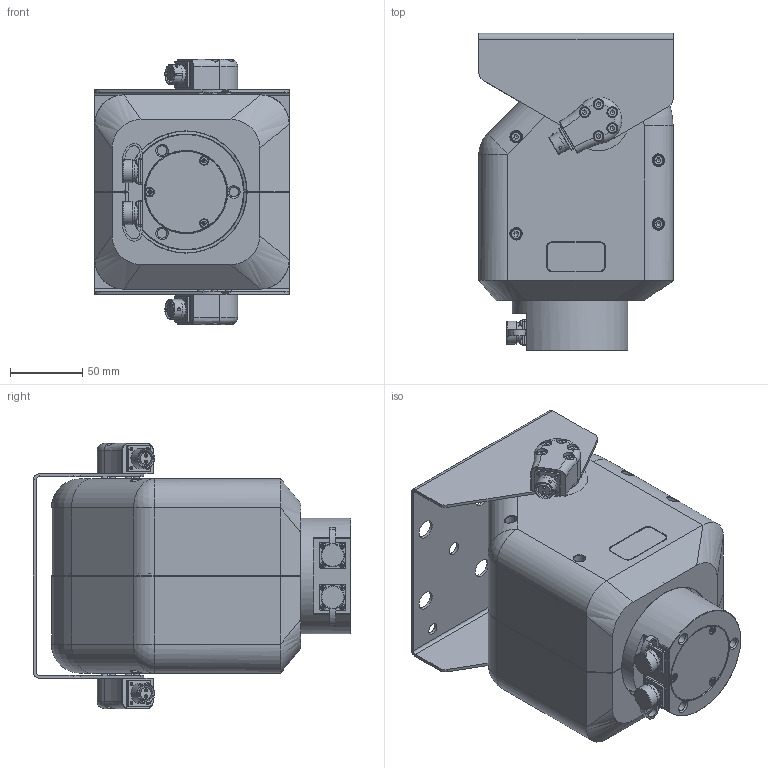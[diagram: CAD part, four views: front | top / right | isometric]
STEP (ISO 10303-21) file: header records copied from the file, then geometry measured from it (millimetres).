
FILE_DESCRIPTION(('STEP AP242'), '1');
FILE_NAME('TL.0009-271', '', ('UNSPECIFIED'), ('UNSPECIFIED'), 'C3D Converter', 'C3D Toolkit', '');
FILE_SCHEMA(('AP242_MANAGED_MODEL_BASED_3D_ENGINEERING_MIM_LF { 1 0 10303 442 1 1 4 }'));
Length unit declared in the file: millimetre
Products named in the file (27): TL.0008-1; Кожух; Шильд TL.0008-003; Кронштейн полезной нагрузки; DIN 912 - M4 x 16; шайба нейлоновая WS4-1 20968; ухо с разъёмом (прав); DIN 912 - M4 x 0,7 x 25 x 23,25; SF1213-S2-N; TL.0008-091 Кронштейн угловой кабельный; Опора поворотки; Крышка опоры; ISO 7046-1  - M3 x 8 - 4.8 - Z; ТехЛазер TL.0192 (2 выхода сверху) с проставкой; SF1213 nhb rjynfrnf; DIN 7985 (Z) - M2x6-Z
Assembly tree (55 placements, depth 5):
  (unnamed)
    TL.0008-1
      Кожух
      Шильд TL.0008-003
      Кронштейн полезной нагрузки
      DIN 912 - M4 x 16  x4
      DIN 912 - M4 x 16
      DIN 912 - M4 x 16  x2
      DIN 912 - M4 x 16
      шайба нейлоновая WS4-1 20968  x8
      ухо с разъёмом (прав)
        DIN 912 - M4 x 0,7 x 25 x 23,25
        DIN 912 - M4 x 0,7 x 25 x 23,25
        DIN 912 - M4 x 0,7 x 25 x 23,25
        DIN 912 - M4 x 0,7 x 25 x 23,25
        (unnamed)
        DIN 912 - M4 x 0,7 x 25 x 23,25
        SF1213-S2-N
        TL.0008-091 Кронштейн угловой кабельный
      ухо с разъёмом (прав)
        DIN 912 - M4 x 0,7 x 25 x 23,25
        DIN 912 - M4 x 0,7 x 25 x 23,25
        DIN 912 - M4 x 0,7 x 25 x 23,25
        DIN 912 - M4 x 0,7 x 25 x 23,25
        (unnamed)
        DIN 912 - M4 x 0,7 x 25 x 23,25
        SF1213-S2-N
        TL.0008-091 Кронштейн угловой кабельный
      TL.0008-1
        Опора поворотки
        Крышка опоры
        ISO 7046-1  - M3 x 8 - 4.8 - Z  x3
        ТехЛазер TL.0192 (2 выхода сверху) с проставкой
          SF1213 nhb rjynfrnf  x2
          DIN 7985 (Z) - M2x6-Z  x8
Bounding box: 134 x 218.8 x 183 mm (x, y, z)
Volume: 602725.2 mm3; surface area: 357341.3 mm2
Topology: 51 solids, 53 shells, 1630 faces, 4484 edges, 3070 vertices
Faces by surface type: plane 741, cylinder 544, cone 220, torus 79, sphere 24, bspline 22
Full cylindrical faces by diameter (mm): 1 x2, 1.567 x8, 1.6 x4, 1.8 x16, 2 x8, 2.05 x12, 2.2 x24, 2.5 x4, 2.693 x3, 3 x3, 3.2 x3, 3.3 x8, 4 x18, 4.1 x22, 4.2 x16, 5.5 x3, 6.647 x3, 6.8 x8, 7 x18, 7.5 x10, 8 x12, 8.4 x4, 8.6 x5, 9 x2, 9.7 x4, 11.61 x4, 11.9 x4, 12.5 x2, 12.69 x4, 12.9 x2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
Entity records: 52875 total; most frequent: CARTESIAN_POINT 19779, DIRECTION 4967, ORIENTED_EDGE 4518, EDGE_CURVE 2259, AXIS2_PLACEMENT_3D 2043, VERTEX_POINT 1690, EDGE_LOOP 1423, FACE_BOUND 1108
